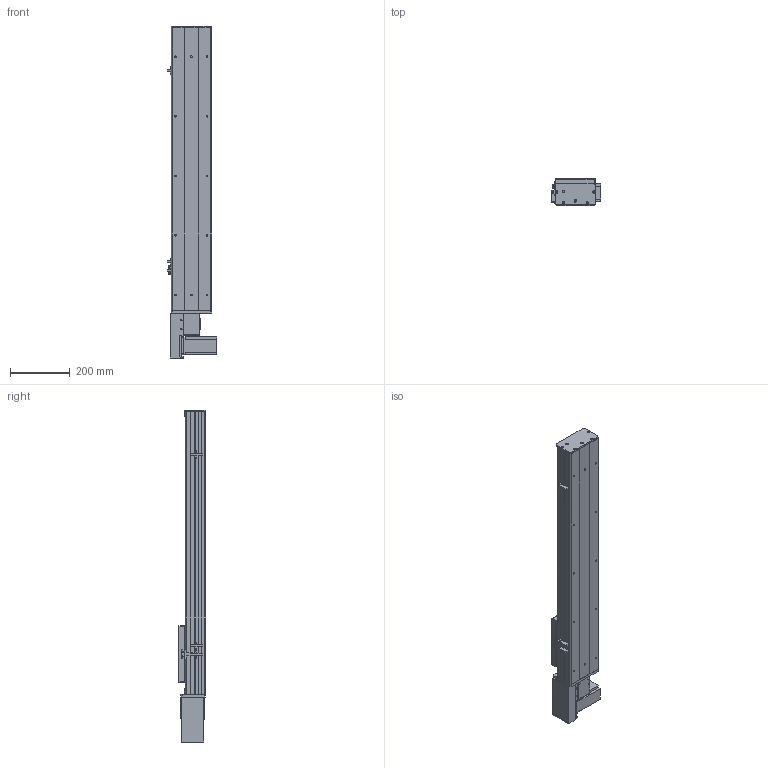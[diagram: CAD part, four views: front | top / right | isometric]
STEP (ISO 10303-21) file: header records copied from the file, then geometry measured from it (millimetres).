
FILE_DESCRIPTION (( 'STEP AP203' ), '1' );
FILE_NAME ('Y135CB-D90-S650-BR-P400W.STEP', '2020-02-18T02:16:04', ( '微软用户' ), ( '微软中国' ), 'SwSTEP 2.0', 'SolidWorks 2017', '' );
FILE_SCHEMA (( 'CONFIG_CONTROL_DESIGN' ));
Length unit declared in the file: millimetre
Products named in the file (18): C-雄赽釱--; 0B-萇儂楊擘啣; Y10B--々湍喘謫眊--666; san松下电机400不带刹车----; Y135CB-耜裔; Y135CB-D90-S650-BR-P400W; 5CB --掛极耜裔啣-; 135CB---遴掛极.-; C-詩湍揤踡え-陔; 35CB---喘謫眊楊擘啣; 135CB--詩湍-CE; Y10B-耜蚾蟀諉啣----; Y100-135俋离換覜ん--; Y俋欶BR----; Y135C-陔俋离換覜結え-; 0B-埴倛裔啣; 5C--俋欶; 0B-源倛裔啣
Assembly tree (21 placements, depth 2):
  Y135CB-D90-S650-BR-P400W
    Y135CB-耜裔
    135CB---遴掛极.-
    35CB---喘謫眊楊擘啣
    Y10B-耜蚾蟀諉啣----
    Y俋欶BR----
    0B-埴倛裔啣
    0B-源倛裔啣
    0B-萇儂楊擘啣
    san松下电机400不带刹车----
    5CB --掛极耜裔啣-  x2
    C-詩湍揤踡え-陔  x2
    135CB--詩湍-CE
    Y100-135俋离換覜ん--  x3
    Y135C-陔俋离換覜結え-
    5C--俋欶
    C-雄赽釱--
    Y10B--々湍喘謫眊--666
Bounding box: 167.5 x 91 x 1114.5 mm (x, y, z)
Volume: 3478440.3 mm3; surface area: 1352416.8 mm2
Topology: 21 solids, 21 shells, 937 faces, 2491 edges, 1650 vertices
Faces by surface type: cylinder 463, plane 458, cone 16
Entity records: 28937 total; most frequent: DIRECTION 4803, CARTESIAN_POINT 4724, ORIENTED_EDGE 4458, EDGE_CURVE 2229, AXIS2_PLACEMENT_3D 1745, VERTEX_POINT 1478, VECTOR 1313, LINE 1313
